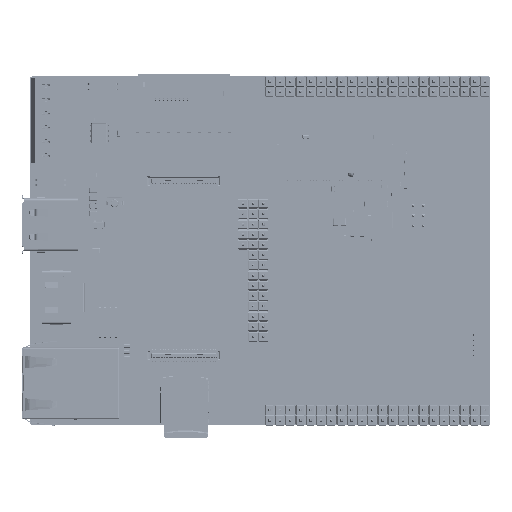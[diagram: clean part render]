
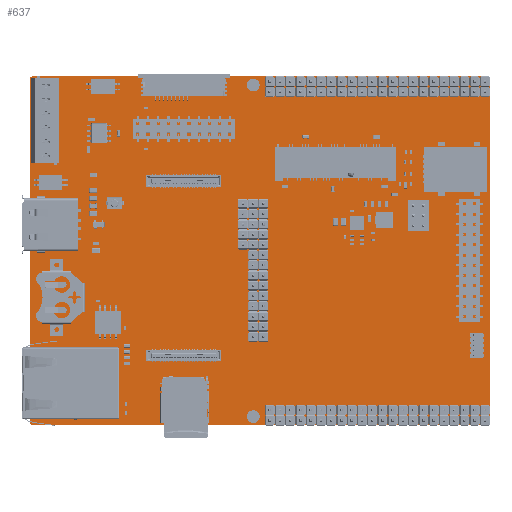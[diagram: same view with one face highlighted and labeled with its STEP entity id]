
A CAD part, top view. The second image highlights one B-rep face of the part: STEP entity #637.
In plain terms, the highlighted planar face has unit normal (0, 0, 1).
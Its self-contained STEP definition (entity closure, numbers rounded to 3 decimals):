
#372 = VERTEX_POINT('',#373);
#373 = CARTESIAN_POINT('',(0.5,0.,1.606));
#379 = EDGE_CURVE('',#372,#380,#382,.T.);
#380 = VERTEX_POINT('',#381);
#381 = CARTESIAN_POINT('',(0.,0.5,1.606));
#382 = CIRCLE('',#383,0.498);
#383 = AXIS2_PLACEMENT_3D('',#384,#385,#386);
#384 = CARTESIAN_POINT('',(0.498,0.498,1.606));
#385 = DIRECTION('',(0.,0.,-1.));
#386 = DIRECTION('',(0.003,-1.,0.));
#412 = EDGE_CURVE('',#380,#413,#415,.T.);
#413 = VERTEX_POINT('',#414);
#414 = CARTESIAN_POINT('',(0.,86.,1.606));
#415 = LINE('',#416,#417);
#416 = CARTESIAN_POINT('',(0.,0.5,1.606));
#417 = VECTOR('',#418,1.);
#418 = DIRECTION('',(0.,1.,0.));
#443 = EDGE_CURVE('',#413,#444,#446,.T.);
#444 = VERTEX_POINT('',#445);
#445 = CARTESIAN_POINT('',(0.5,86.5,1.606));
#446 = CIRCLE('',#447,0.498);
#447 = AXIS2_PLACEMENT_3D('',#448,#449,#450);
#448 = CARTESIAN_POINT('',(0.498,86.002,1.606));
#449 = DIRECTION('',(0.,0.,-1.));
#450 = DIRECTION('',(-1.,-0.003,-0.));
#476 = EDGE_CURVE('',#444,#477,#479,.T.);
#477 = VERTEX_POINT('',#478);
#478 = CARTESIAN_POINT('',(113.5,86.5,1.606));
#479 = LINE('',#480,#481);
#480 = CARTESIAN_POINT('',(0.5,86.5,1.606));
#481 = VECTOR('',#482,1.);
#482 = DIRECTION('',(1.,0.,0.));
#507 = EDGE_CURVE('',#477,#508,#510,.T.);
#508 = VERTEX_POINT('',#509);
#509 = CARTESIAN_POINT('',(114.,86.,1.606));
#510 = CIRCLE('',#511,0.498);
#511 = AXIS2_PLACEMENT_3D('',#512,#513,#514);
#512 = CARTESIAN_POINT('',(113.502,86.002,1.606));
#513 = DIRECTION('',(0.,0.,-1.));
#514 = DIRECTION('',(-0.003,1.,0.));
#540 = EDGE_CURVE('',#508,#541,#543,.T.);
#541 = VERTEX_POINT('',#542);
#542 = CARTESIAN_POINT('',(114.,0.5,1.606));
#543 = LINE('',#544,#545);
#544 = CARTESIAN_POINT('',(114.,86.,1.606));
#545 = VECTOR('',#546,1.);
#546 = DIRECTION('',(0.,-1.,0.));
#571 = EDGE_CURVE('',#541,#572,#574,.T.);
#572 = VERTEX_POINT('',#573);
#573 = CARTESIAN_POINT('',(113.5,0.,1.606));
#574 = CIRCLE('',#575,0.498);
#575 = AXIS2_PLACEMENT_3D('',#576,#577,#578);
#576 = CARTESIAN_POINT('',(113.502,0.498,1.606));
#577 = DIRECTION('',(0.,0.,-1.));
#578 = DIRECTION('',(1.,0.003,0.));
#604 = EDGE_CURVE('',#572,#372,#605,.T.);
#605 = LINE('',#606,#607);
#606 = CARTESIAN_POINT('',(113.5,0.,1.606));
#607 = VECTOR('',#608,1.);
#608 = DIRECTION('',(-1.,0.,0.));
#637 = ADVANCED_FACE('',(#638),#648,.F.);
#638 = FACE_BOUND('',#639,.F.);
#639 = EDGE_LOOP('',(#640,#641,#642,#643,#644,#645,#646,#647));
#640 = ORIENTED_EDGE('',*,*,#379,.T.);
#641 = ORIENTED_EDGE('',*,*,#412,.T.);
#642 = ORIENTED_EDGE('',*,*,#443,.T.);
#643 = ORIENTED_EDGE('',*,*,#476,.T.);
#644 = ORIENTED_EDGE('',*,*,#507,.T.);
#645 = ORIENTED_EDGE('',*,*,#540,.T.);
#646 = ORIENTED_EDGE('',*,*,#571,.T.);
#647 = ORIENTED_EDGE('',*,*,#604,.T.);
#648 = PLANE('',#649);
#649 = AXIS2_PLACEMENT_3D('',#650,#651,#652);
#650 = CARTESIAN_POINT('',(57.,43.25,1.606));
#651 = DIRECTION('',(-0.,-0.,-1.));
#652 = DIRECTION('',(-1.,0.,0.));
